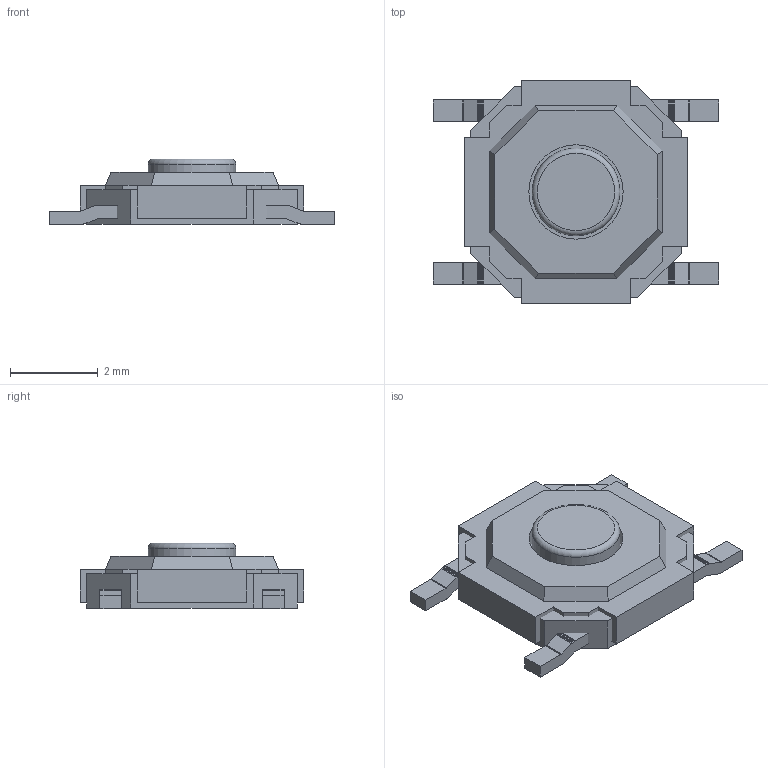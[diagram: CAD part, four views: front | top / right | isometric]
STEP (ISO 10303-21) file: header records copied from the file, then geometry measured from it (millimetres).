
FILE_DESCRIPTION(('Open CASCADE Model'),'2;1');
FILE_NAME('Open CASCADE Shape Model','2026-10-15T18:29:32',('Author'),( 'Open CASCADE'),'Open CASCADE STEP processor 7.9','Open CASCADE 7.9' ,'Unknown');
FILE_SCHEMA(('AUTOMOTIVE_DESIGN { 1 0 10303 214 1 1 1 1 }'));
Length unit declared in the file: millimetre
Products named in the file (5): SW_Push_1P1T_XKB_TS-1187A; base; cover; plunger; terminals
Assembly tree (4 placements, depth 2):
  SW_Push_1P1T_XKB_TS-1187A
    base
    cover
    plunger
    terminals
Bounding box: 6.5 x 5.1 x 1.5 mm (x, y, z)
Volume: 35.2 mm3; surface area: 137.2 mm2
Topology: 7 solids, 7 shells, 186 faces, 512 edges, 341 vertices
Faces by surface type: plane 175, bspline 8, cylinder 2, torus 1
Full cylindrical faces by diameter (mm): 2 x1, 2.15 x1
Entity records: 13890 total; most frequent: CARTESIAN_POINT 2126, DIRECTION 1889, LINE 1510, VECTOR 1510, ORIENTED_EDGE 1024, PCURVE 1024, DEFINITIONAL_REPRESENTATION 1024, EDGE_CURVE 512
